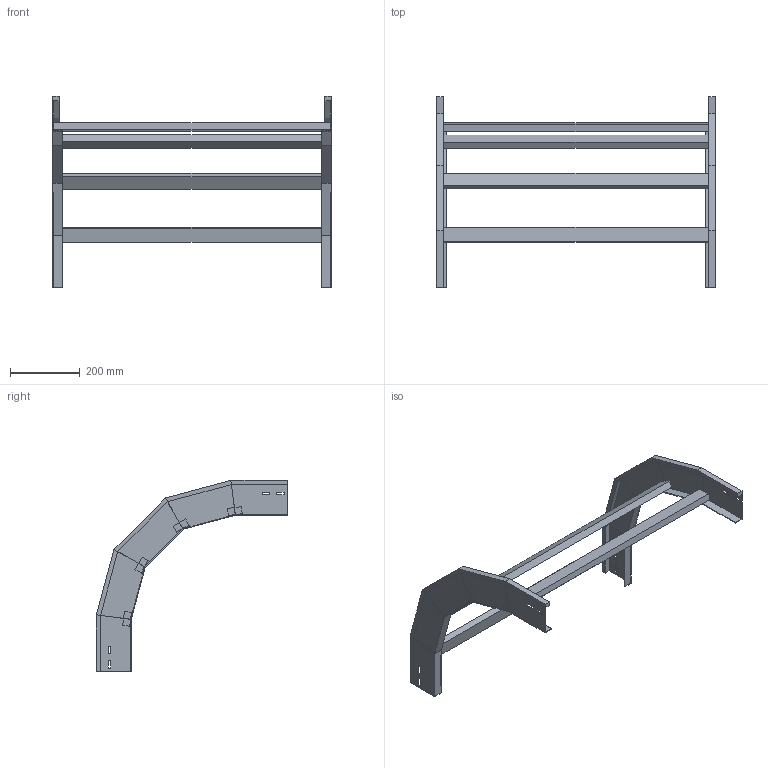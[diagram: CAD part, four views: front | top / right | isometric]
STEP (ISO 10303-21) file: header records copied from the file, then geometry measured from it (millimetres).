
FILE_DESCRIPTION (( 'STEP AP214' ), '1' );
FILE_NAME ('A2_33B3D800.step', '2025-02-21T15:02:09', ( '' ), ( '' ), 'SwSTEP 2.0', 'SolidWorks 2023', '' );
FILE_SCHEMA (( 'AUTOMOTIVE_DESIGN' ));
Length unit declared in the file: millimetre
Products named in the file (3): TRAVERSINO_800; LONGH.DISCESA_90°_H100_R300; A2_33B3D800
Assembly tree (6 placements, depth 2):
  A2_33B3D800
    LONGH.DISCESA_90°_H100_R300  x2
    TRAVERSINO_800  x4
Bounding box: 800 x 549.44 x 549.44 mm (x, y, z)
Volume: 3342660.1 mm3; surface area: 871939.4 mm2
Topology: 6 solids, 6 shells, 140 faces, 320 edges, 192 vertices
Faces by surface type: plane 140
Entity records: 1872 total; most frequent: CARTESIAN_POINT 309, ORIENTED_EDGE 296, DIRECTION 294, LINE 148, EDGE_CURVE 148, VECTOR 148, VERTEX_POINT 88, AXIS2_PLACEMENT_3D 73
